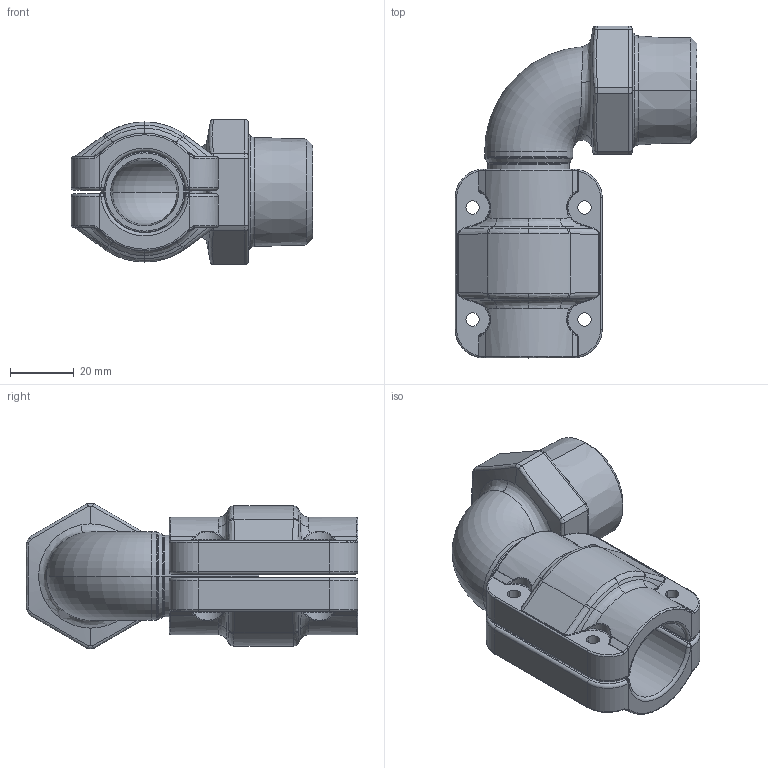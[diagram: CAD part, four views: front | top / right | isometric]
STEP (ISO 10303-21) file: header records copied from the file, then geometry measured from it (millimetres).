
FILE_DESCRIPTION((''),'2;1');
FILE_NAME('AU15221599_ASM','2017-05-12T',('Administrator'),(''),'PRO/ENGINEER BY PARAMETRIC TECHNOLOGY CORPORATION, 2009360','PRO/ENGINEER BY PARAMETRIC TECHNOLOGY CORPORATION, 2009360','');
FILE_SCHEMA(('AUTOMOTIVE_DESIGN_CC2 { 1 2 10303 214 -1 1 5 2 }'));
Length unit declared in the file: millimetre
Products named in the file (5): AU15221500; 201520020000_23; 201520020001_10; 2015200200_ASM; AU15221599_ASM
Assembly tree (4 placements, depth 3):
  AU15221599_ASM
    AU15221500
    2015200200_ASM
      201520020000_23
      201520020001_10
Bounding box: 75.62 x 103.76 x 45.43 mm (x, y, z)
Volume: 88621.4 mm3; surface area: 34483.4 mm2
Topology: 3 solids, 3 shells, 393 faces, 922 edges, 536 vertices
Faces by surface type: bspline 152, cylinder 112, torus 72, plane 37, cone 12, sphere 8
Entity records: 20217 total; most frequent: CARTESIAN_POINT 9503, ORIENTED_EDGE 1844, DIRECTION 1354, PRESENTATION_STYLE_ASSIGNMENT 925, STYLED_ITEM 925, CURVE_STYLE 922, EDGE_CURVE 922, AXIS2_PLACEMENT_3D 581
